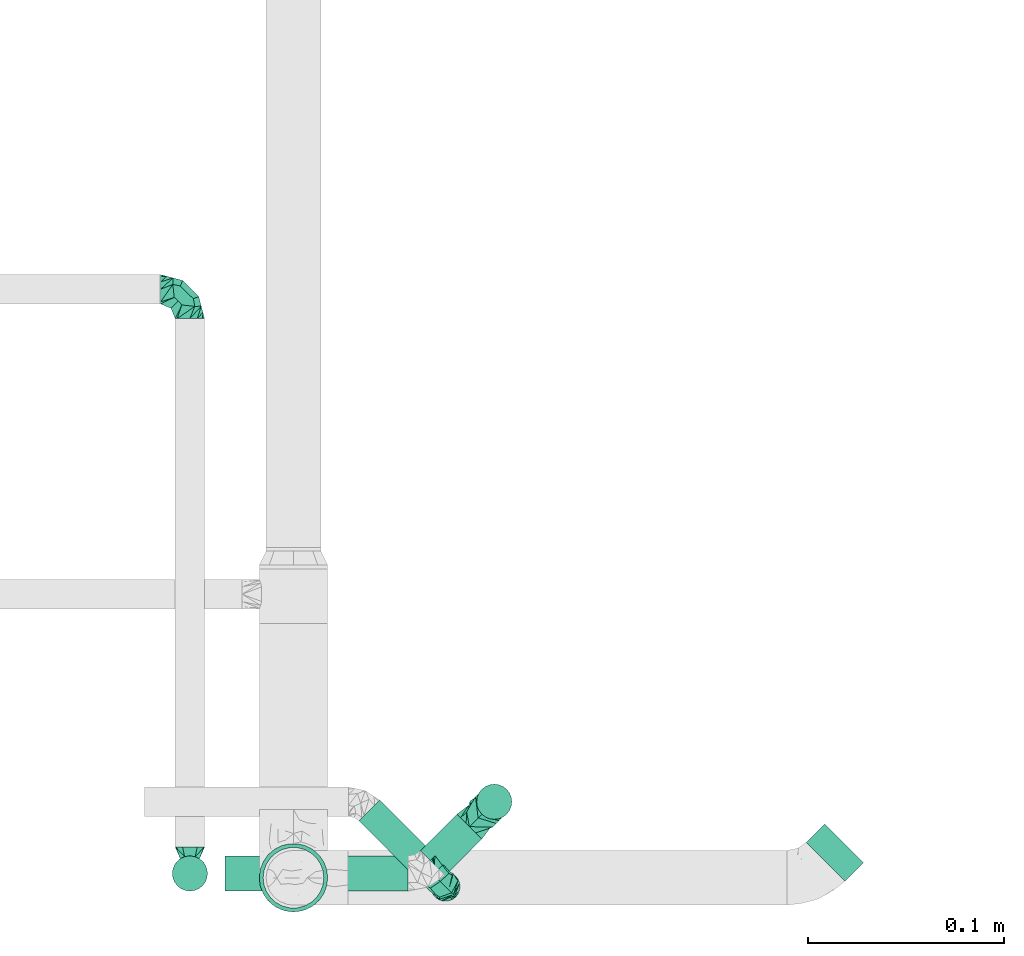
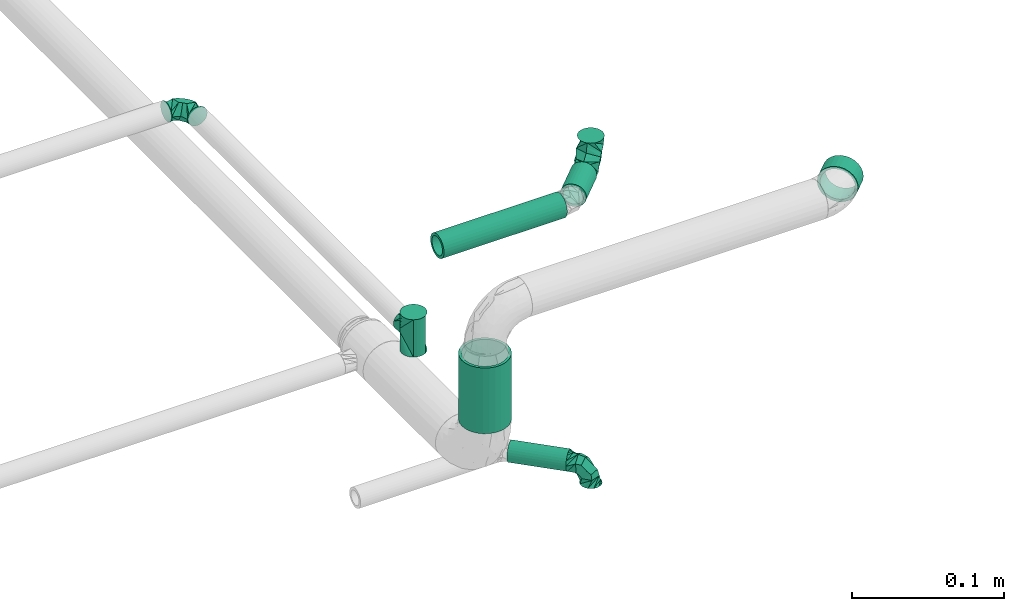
# One storey, part 15 of 35: 5 flow segments, 4 flow fittings.
"""IFC2X3 building model written with IfcOpenShell, lengths in millimetres."""

import ifcopenshell
import ifcopenshell.guid

model = None  # the IFC model being written
_history = None  # IfcOwnerHistory: only IFC2X3 demands one
_inside = {}  # id of a spatial element -> (the spatial element, [elements in it])
_under = {}  # id of a project, library or spatial element -> (it, [spatial elements below it])
_declared = {}  # id of a project -> (the project, [libraries it declares])
_typed = {}  # id of a type object -> (the type object, [elements of that type])
_made_of = {}  # id of a material, layer set ... -> (it, [elements and type objects made of it])


def new_model(schema):
    """Start an empty IFC model of exactly this schema.

    Asked for "IFC4X3", IfcOpenShell would pick the latest addendum, in which some entities
    have other attributes; the version numbers below select the first issue.
    IFC2X3 requires an IfcOwnerHistory on every rooted entity: one is made here for all.
    """
    global model, _history
    if schema == "IFC4X3":
        model = ifcopenshell.file(schema_version=(4, 3, 0, 0))
    else:
        model = ifcopenshell.file(schema=schema)
    _inside.clear()
    _under.clear()
    _declared.clear()
    _typed.clear()
    _made_of.clear()
    _history = None
    if model.schema == "IFC2X3":
        org = make("IfcOrganization", Name="unknown")
        user = make(
            "IfcPersonAndOrganization",
            ThePerson=make("IfcPerson", FamilyName="unknown"),
            TheOrganization=org,
        )
        app = make(
            "IfcApplication",
            ApplicationDeveloper=org,
            Version="unknown",
            ApplicationFullName="unknown",
            ApplicationIdentifier="unknown",
        )
        _history = make(
            "IfcOwnerHistory",
            OwningUser=user,
            OwningApplication=app,
            ChangeAction="ADDED",
            CreationDate=0,
        )
    return model


def make(cls, **values):
    """One entity of the class cls with the attributes given. An attribute that is None is left unset."""
    return model.create_entity(
        cls, **{name: value for name, value in values.items() if value is not None}
    )


def entity(cls, *values):
    """Any entity or typed value of the class cls, its attributes in the order of the schema. None: left unset."""
    e = model.create_entity(cls)
    for i, value in enumerate(values):
        if value is not None:
            e[i] = value
    return e


def rooted(cls, **values):
    """An entity with a GlobalId (a new one), such as an element, a storey or a relation."""
    return make(cls, GlobalId=ifcopenshell.guid.new(), OwnerHistory=_history, **values)


def si_unit(unit_type, name, prefix=None):
    """IfcSIUnit, for example si_unit("LENGTHUNIT", "METRE", prefix="MILLI")."""
    return make("IfcSIUnit", UnitType=unit_type, Prefix=prefix, Name=name)


def converted_unit(unit_type, name, factor, base, dimensions=None, offset=None):
    """IfcConversionBasedUnit, such as the inch: factor (a typed value) times the base unit."""
    return make(
        "IfcConversionBasedUnit"
        if offset is None
        else "IfcConversionBasedUnitWithOffset",
        ConversionOffset=offset,
        Dimensions=None
        if dimensions is None
        else entity("IfcDimensionalExponents", *dimensions),
        UnitType=unit_type,
        Name=name,
        ConversionFactor=make(
            "IfcMeasureWithUnit", ValueComponent=factor, UnitComponent=base
        ),
    )


def derived_unit(unit_type, elements):
    """IfcDerivedUnit: a product of units, each with its exponent."""
    return make(
        "IfcDerivedUnit",
        Elements=[
            make("IfcDerivedUnitElement", Unit=unit, Exponent=power)
            for unit, power in elements
        ],
        UnitType=unit_type,
    )


def assignment(units):
    """IfcUnitAssignment: the units of a project."""
    return None if units is None else make("IfcUnitAssignment", Units=units)


def point(xyz):
    """IfcCartesianPoint."""
    return None if xyz is None else make("IfcCartesianPoint", Coordinates=xyz)


def direction(xyz):
    """IfcDirection."""
    return None if xyz is None else make("IfcDirection", DirectionRatios=xyz)


def frame(location, z_axis=None, x_axis=None):
    """IfcAxis2Placement3D, a coordinate frame: its origin and axes. An axis left out is left unset."""
    return make(
        "IfcAxis2Placement3D",
        Location=point(location),
        Axis=direction(z_axis),
        RefDirection=direction(x_axis),
    )


def frame_2d(location, x_axis=None):
    """IfcAxis2Placement2D, a coordinate frame in the plane: its origin and x axis."""
    return make(
        "IfcAxis2Placement2D", Location=point(location), RefDirection=direction(x_axis)
    )


def origin_with_axes():
    """The frame at (0, 0, 0) with the z axis (0, 0, 1) and the x axis (1, 0, 0) written out."""
    return frame((0.0, 0.0, 0.0), z_axis=(0.0, 0.0, 1.0), x_axis=(1.0, 0.0, 0.0))


def origin_2d_with_axis():
    """The frame at (0, 0) in the plane with the x axis (1, 0) written out."""
    return frame_2d((0.0, 0.0), x_axis=(1.0, 0.0))


def place(relative_to, where):
    """IfcLocalPlacement: puts the frame where relative to a parent placement (None: the world)."""
    return make(
        "IfcLocalPlacement", PlacementRelTo=relative_to, RelativePlacement=where
    )


def context(
    kind, dimensions, precision=None, world=None, true_north=None, identifier=None
):
    """IfcGeometricRepresentationContext, for example the 3D "Model" context."""
    return make(
        "IfcGeometricRepresentationContext",
        ContextIdentifier=identifier,
        ContextType=kind,
        CoordinateSpaceDimension=dimensions,
        Precision=precision,
        WorldCoordinateSystem=world,
        TrueNorth=true_north,
    )


def subcontext(parent, identifier, kind, view, scale=None):
    """IfcGeometricRepresentationSubContext, for example "Body" below "Model"."""
    return make(
        "IfcGeometricRepresentationSubContext",
        ContextIdentifier=identifier,
        ContextType=kind,
        ParentContext=parent,
        TargetScale=scale,
        TargetView=view,
    )


def project(units=None, contexts=None):
    """IfcProject with its units and contexts."""
    return rooted(
        "IfcProject",
        Name="project",
        RepresentationContexts=contexts,
        UnitsInContext=assignment(units),
    )


def spatial(cls, under=None, at=None, **own):
    """A site, building, storey or space (cls), placed at a placement, below another one or the project."""
    s = rooted(cls, ObjectPlacement=at, **own)
    if under is not None:
        _under.setdefault(under.id(), (under, []))[1].append(s)
    return s


def profile(cls, at=None, kind="AREA", **sizes):
    """A parametric profile (cls). Its sizes go by their IFC names, for example OverallWidth=200.0."""
    return make(cls, ProfileType=kind, Position=at, **sizes)


def hollow_circle(**sizes):
    """IfcCircleHollowProfileDef."""
    return profile("IfcCircleHollowProfileDef", **sizes)


def extrude(swept, where, along, depth):
    """IfcExtrudedAreaSolid: the profile swept, set in the frame where, extruded along a direction by depth."""
    return make(
        "IfcExtrudedAreaSolid",
        SweptArea=swept,
        Position=where,
        ExtrudedDirection=direction(along),
        Depth=depth,
    )


def faces_of(points, faces, orient=None, outer=None):
    """IfcFace entities. A face is a list of loops; a loop is a list of indices into points, from 0.

    orient and outer hold one flag for each loop. By default every Orientation is true, the
    first loop of a face is its IfcFaceOuterBound and the others are IfcFaceBound.
    """
    made = []
    for i, loops in enumerate(faces):
        bounds = []
        for j, loop in enumerate(loops):
            is_outer = j == 0 if outer is None else outer[i][j]
            bounds.append(
                make(
                    "IfcFaceOuterBound" if is_outer else "IfcFaceBound",
                    Bound=make("IfcPolyLoop", Polygon=[points[k] for k in loop]),
                    Orientation=True if orient is None else orient[i][j],
                )
            )
        made.append(make("IfcFace", Bounds=bounds))
    return made


def open_shell(faces, orient=None, outer=None):
    """The faces of one IfcOpenShell. surface_model builds it on its shared points."""
    return ("IfcOpenShell", faces, orient, outer)


def surface_model(cls, points, shells):
    """IfcFaceBasedSurfaceModel or IfcShellBasedSurfaceModel (cls): surfaces that need not close."""
    shared = [point(p) for p in points]
    made = [make(c, CfsFaces=faces_of(shared, fs, o, b)) for c, fs, o, b in shells]
    if cls == "IfcFaceBasedSurfaceModel":
        return make(cls, FbsmFaces=made)
    return make(cls, SbsmBoundary=made)


def shape(context_of_items, identifier, shape_type, items):
    """IfcShapeRepresentation: the items that make up one representation, for example the "Body"."""
    return make(
        "IfcShapeRepresentation",
        ContextOfItems=context_of_items,
        RepresentationIdentifier=identifier,
        RepresentationType=shape_type,
        Items=items,
    )


def source(mapping_origin, context_of_items, identifier, shape_type, items):
    """IfcRepresentationMap: a shape defined once, which mapped items show again and again."""
    return make(
        "IfcRepresentationMap",
        MappingOrigin=mapping_origin,
        MappedRepresentation=shape(context_of_items, identifier, shape_type, items),
    )


def transform(
    local_origin,
    x_axis=None,
    y_axis=None,
    z_axis=None,
    scale=None,
    scale2=None,
    scale3=None,
    uniform=True,
):
    """IfcCartesianTransformationOperator3D, or its non-uniform kind. x_axis, y_axis, z_axis: its Axis1, 2, 3."""
    if uniform:
        return make(
            "IfcCartesianTransformationOperator3D",
            Axis1=direction(x_axis),
            Axis2=direction(y_axis),
            LocalOrigin=point(local_origin),
            Scale=scale,
            Axis3=direction(z_axis),
        )
    return make(
        "IfcCartesianTransformationOperator3DnonUniform",
        Axis1=direction(x_axis),
        Axis2=direction(y_axis),
        LocalOrigin=point(local_origin),
        Scale=scale,
        Axis3=direction(z_axis),
        Scale2=scale2,
        Scale3=scale3,
    )


def mapped(mapping_source, mapping_target):
    """IfcMappedItem: shows the shape of a source again, moved by a transform."""
    return make(
        "IfcMappedItem", MappingSource=mapping_source, MappingTarget=mapping_target
    )


def made_of(thing, what):
    """Note that an element or type object is made of a material, layer set ...; save() writes the relation."""
    if what is not None:
        _made_of.setdefault(what.id(), (what, []))[1].append(thing)
    return thing


def type_object(cls, material=None, **own):
    """A type object (cls), such as IfcWallType, which elements share."""
    return made_of(rooted(cls, **own), material)


def element(
    cls,
    number,
    at=None,
    inside=None,
    cuts=None,
    type_object=None,
    material=None,
    context=None,
    identifier="Body",
    shape_type=None,
    held_by="IfcProductDefinitionShape",
    body=None,
    shapes=None,
    **own,
):
    """One element of the class cls, such as IfcWall. Its Tag is "e" and its number.

    at: its placement. inside: the storey or other place that contains it. cuts: it is an
    opening in that element (IfcRelVoidsElement). A single representation is given by context,
    identifier, shape_type and body (its items); several are given by shapes. held_by: the class
    of the entity that holds the representations. save() writes the other relations.
    """
    e = rooted(cls, Tag="e%d" % number, ObjectPlacement=at, **own)
    if body is not None:
        shapes = [shape(context, identifier, shape_type, body)]
    if shapes is not None:
        e.Representation = make(held_by, Representations=shapes)
    if inside is not None:
        _inside.setdefault(inside.id(), (inside, []))[1].append(e)
    if cuts is not None:
        rooted(
            "IfcRelVoidsElement", RelatingBuildingElement=cuts, RelatedOpeningElement=e
        )
    if type_object is not None:
        _typed.setdefault(type_object.id(), (type_object, []))[1].append(e)
    return made_of(e, material)


def aggregate(whole, parts):
    """IfcRelAggregates: a whole, such as a stair, and the parts it consists of."""
    return rooted("IfcRelAggregates", RelatingObject=whole, RelatedObjects=parts)


def save(model, path):
    """Write the relations noted so far, then the file.

    IfcRelAggregates (storeys below a building ...), IfcRelContainedInSpatialStructure (elements
    in a storey), IfcRelDefinesByType, IfcRelAssociatesMaterial and IfcRelDeclares: one each for
    every whole, place, type object, material and project.
    """
    for whole, parts in _under.values():
        aggregate(whole, parts)
    for where, things in _inside.values():
        rooted(
            "IfcRelContainedInSpatialStructure",
            RelatedElements=things,
            RelatingStructure=where,
        )
    for kind, things in _typed.values():
        rooted("IfcRelDefinesByType", RelatedObjects=things, RelatingType=kind)
    for what, things in _made_of.values():
        rooted("IfcRelAssociatesMaterial", RelatedObjects=things, RelatingMaterial=what)
    for by, libraries in _declared.values():
        rooted("IfcRelDeclares", RelatingContext=by, RelatedDefinitions=libraries)
    model.write(path)


model = new_model("IFC2X3")

# Units and contexts
model_context = context("Model", 3, precision=0.01, world=frame((0.0, 4.29681676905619e-09, 0.0)), true_north=direction((4.01073788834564e-13, 1.0)))
plan_context = context("Plan", 3, precision=0.01, world=frame((0.0, 4.29681676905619e-09, 0.0)), true_north=direction((4.01073788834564e-13, 1.0)))
body_context = subcontext(model_context, "Body", "Model", "MODEL_VIEW")
ifc_project = project(units=[converted_unit("PLANEANGLEUNIT", "DEGREE", entity("IfcPositiveLengthMeasure", 0.0174532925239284), si_unit("PLANEANGLEUNIT", "RADIAN"), dimensions=[0, 0, 0, 0, 0, 0, 0]), si_unit("AREAUNIT", "SQUARE_METRE"), si_unit("LENGTHUNIT", "METRE", prefix="MILLI"), si_unit("MASSUNIT", "GRAM", prefix="KILO"), si_unit("POWERUNIT", "WATT"), si_unit("PRESSUREUNIT", "PASCAL"), si_unit("FORCEUNIT", "NEWTON", prefix="KILO"), si_unit("ELECTRICVOLTAGEUNIT", "VOLT"), si_unit("ELECTRICCURRENTUNIT", "AMPERE"), si_unit("THERMODYNAMICTEMPERATUREUNIT", "DEGREE_CELSIUS"), si_unit("TIMEUNIT", "SECOND"), si_unit("VOLUMEUNIT", "CUBIC_METRE"), derived_unit("LINEARVELOCITYUNIT", [(si_unit("LENGTHUNIT", "METRE"), 1), (si_unit("TIMEUNIT", "SECOND"), -1)]), derived_unit("VOLUMETRICFLOWRATEUNIT", [(si_unit("VOLUMEUNIT", "CUBIC_METRE"), 1), (si_unit("TIMEUNIT", "SECOND"), -1)]), derived_unit("THERMALTRANSMITTANCEUNIT", [(si_unit("POWERUNIT", "WATT"), 1), (si_unit("THERMODYNAMICTEMPERATUREUNIT", "KELVIN"), -1), (si_unit("AREAUNIT", "SQUARE_METRE"), -1)]), derived_unit("SOUNDPRESSUREUNIT", [(si_unit("PRESSUREUNIT", "PASCAL"), 1)])], contexts=[model_context, plan_context])

# Site, building, storey
site_placement = place(None, frame((0.0, -4.29681676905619e-09, 0.0), z_axis=(0.0, 0.0, 1.0), x_axis=(1.0, 0.0, 0.0)))
site = spatial("IfcSite", under=ifc_project, at=site_placement, Name="ENGM", CompositionType="ELEMENT")
building_placement = place(site_placement, frame((0.0, 4.29681676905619e-09, 0.0), z_axis=(0.0, 0.0, 1.0), x_axis=(1.0, 0.0, 0.0)))
building = spatial("IfcBuilding", under=site, at=building_placement, Name="TH", CompositionType="ELEMENT")
storey_placement = place(building_placement, frame((0.0, 0.0, 210200.0), z_axis=(0.0, 0.0, 1.0), x_axis=(1.0, 0.0, 0.0)))
storey = spatial("IfcBuildingStorey", under=building, at=storey_placement, Name="Nivå F - 0,7 m", CompositionType="ELEMENT", Elevation=210200.0)

# Flow fittings
pipe_fitting_type_1 = type_object("IfcPipeFittingType", Name="magi_pipe_cu_elbow_short_001", PredefinedType="BEND")
shared_shape_1 = source(origin_with_axes(), body_context, "Body", "SurfaceModel", [
    surface_model("IfcShellBasedSurfaceModel", [(-18.0, 4.5, -7.79423), (-18.0, 2.32937, -8.69333), (-18.0, 0.0, -9.0), (-18.0, -6.36396, -6.36396), (-18.0, 8.69333, -2.32937), (-18.0, 7.79423, -4.5), (-18.0, 6.36396, -6.36396), (-18.0, -4.5, -7.79423), (-18.0, -2.32937, -8.69333), (-18.0, -7.79423, -4.5), (-18.0, -8.69333, -2.32937), (-18.0, -9.0, 0.0), (-18.0, 8.69333, 2.32937), (-18.0, -8.69333, 2.32937), (-18.0, 7.79423, 4.5), (-18.0, 6.36396, 6.36396), (-18.0, 2.32937, 8.69333), (-18.0, 4.5, 7.79423), (-18.0, -7.79423, 4.5), (-18.0, -6.36396, 6.36396), (-18.0, -4.5, 7.79423), (-18.0, -2.32937, 8.69333), (-18.0, 0.0, 9.0), (-18.0, 9.0, 0.0), (0.0, 18.0, -9.0), (-2.32937, 18.0, -8.69333), (-4.5, 18.0, -7.79423), (6.36396, 18.0, -6.36396), (-6.36396, 18.0, -6.36396), (-7.79423, 18.0, -4.5), (-8.69333, 18.0, -2.32937), (-8.69333, 18.0, 2.32937), (2.32937, 18.0, -8.69333), (4.5, 18.0, -7.79423), (8.69333, 18.0, -2.32937), (7.79423, 18.0, -4.5), (9.0, 18.0, 0.0), (7.79423, 18.0, 4.5), (-9.0, 18.0, 0.0), (-6.36396, 18.0, 6.36396), (-7.79423, 18.0, 4.5), (-4.5, 18.0, 7.79423), (-2.32937, 18.0, 8.69333), (6.36396, 18.0, 6.36396), (8.69333, 18.0, 2.32937), (2.32937, 18.0, 8.69333), (4.5, 18.0, 7.79423), (0.0, 18.0, 9.0), (-16.09014, -8.48825, 0.0), (-10.51068, -2.97249, 7.92278), (-10.36056, -6.95302, 0.0), (-4.5, -5.38269, 0.0), (0.44134, -0.44134, 0.0), (2.91201, 2.02933, 0.0), (-2.70211, 1.18586, 7.65564), (-2.02933, -2.91201, 0.0), (-14.18028, -7.97651, 0.0), (-7.11648, 7.11648, 8.61373), (-4.93977, 9.63211, 8.64898), (2.97249, 10.51068, 7.92278), (2.01286, 5.84889, 7.1903), (5.38269, 4.5, 0.0), (-5.73616, -2.07922, 7.10204), (8.48825, 16.09014, 0.0), (7.97651, 14.18028, 0.0), (-9.63211, 4.93977, 8.64898), (-10.31802, 14.81802, 0.0), (-14.81802, 10.31802, 0.0), (-11.63604, 11.63604, 0.0), (6.95302, 10.36056, 0.0), (-10.51068, -2.97249, -7.92278), (-4.93977, 9.63211, -8.64898), (0.8585, 4.1248, -7.1903), (-2.68792, 2.14037, -8.03971), (2.97249, 10.51068, -7.92278), (-13.67048, 7.29638, -6.27272), (-8.50355, 2.18787, -8.98901), (-9.83427, 8.11209, -7.36254)], [open_shell([[[0, 1, 2]], [[0, 2, 3]], [[0, 4, 5]], [[6, 0, 5]], [[4, 0, 3]], [[7, 3, 8]], [[3, 2, 8]], [[9, 10, 3]], [[11, 3, 10]], [[3, 11, 4]], [[11, 12, 4]], [[12, 11, 13]], [[14, 12, 15]], [[16, 17, 15]], [[13, 15, 12]], [[15, 18, 16]], [[18, 19, 16]], [[15, 13, 18]], [[20, 21, 19]], [[22, 19, 21]], [[16, 19, 22]], [[23, 4, 12]], [[24, 25, 26]], [[27, 24, 26]], [[28, 29, 30]], [[28, 30, 26]], [[26, 31, 27]], [[32, 27, 33]], [[32, 24, 27]], [[27, 34, 35]], [[34, 27, 36]], [[27, 37, 36]], [[26, 30, 38]], [[27, 31, 37]], [[39, 31, 40]], [[39, 41, 42]], [[39, 42, 31]], [[43, 31, 42]], [[31, 43, 37]], [[44, 36, 37]], [[43, 45, 46]], [[45, 43, 47]], [[47, 43, 42]], [[31, 26, 38]], [[13, 48, 18]], [[49, 50, 51]], [[52, 53, 54]], [[54, 55, 52]], [[20, 19, 56]], [[18, 56, 19]], [[57, 54, 58]], [[20, 50, 21]], [[22, 21, 50]], [[59, 60, 61]], [[59, 58, 60]], [[55, 54, 62]], [[22, 50, 49]], [[22, 49, 16]], [[62, 49, 51]], [[62, 51, 55]], [[37, 63, 44]], [[49, 17, 16]], [[64, 63, 37]], [[12, 65, 23]], [[14, 15, 49]], [[54, 65, 62]], [[17, 49, 15]], [[58, 38, 66]], [[67, 57, 68]], [[53, 60, 54]], [[45, 47, 69]], [[69, 46, 45]], [[39, 59, 41]], [[42, 59, 47]], [[43, 46, 64]], [[68, 57, 66]], [[64, 46, 69]], [[61, 60, 53]], [[44, 63, 36]], [[59, 61, 69]], [[38, 58, 31]], [[20, 56, 50]], [[54, 57, 65]], [[49, 65, 14]], [[66, 57, 58]], [[64, 37, 43]], [[40, 31, 58]], [[14, 65, 12]], [[39, 40, 59]], [[13, 11, 48]], [[40, 58, 59]], [[48, 56, 18]], [[41, 59, 42]], [[59, 69, 47]], [[49, 62, 65]], [[57, 67, 65]], [[54, 60, 58]], [[67, 23, 65]], [[70, 50, 2]], [[71, 72, 73]], [[74, 71, 29]], [[70, 1, 0]], [[70, 51, 50]], [[34, 36, 63]], [[75, 6, 5]], [[75, 4, 23]], [[5, 4, 75]], [[51, 76, 55]], [[75, 23, 67]], [[70, 6, 75]], [[48, 11, 10]], [[7, 56, 3]], [[2, 50, 8]], [[51, 70, 76]], [[56, 7, 50]], [[7, 8, 50]], [[70, 2, 1]], [[66, 38, 71]], [[52, 72, 53]], [[6, 70, 0]], [[70, 75, 76]], [[73, 52, 55]], [[71, 68, 66]], [[61, 53, 72]], [[33, 64, 69]], [[30, 71, 38]], [[28, 74, 29]], [[56, 9, 3]], [[26, 25, 74]], [[63, 64, 35]], [[56, 48, 9]], [[26, 74, 28]], [[9, 48, 10]], [[24, 74, 25]], [[32, 69, 24]], [[29, 71, 30]], [[27, 64, 33]], [[69, 32, 33]], [[68, 71, 77]], [[74, 24, 69]], [[35, 34, 63]], [[61, 72, 74]], [[61, 74, 69]], [[67, 77, 75]], [[74, 72, 71]], [[35, 64, 27]], [[76, 77, 73]], [[75, 77, 76]], [[77, 71, 73]], [[55, 76, 73]], [[72, 52, 73]], [[77, 67, 68]]])]),
])
flow_fitting_1_placement = place(storey_placement, frame((895676.1125, 478585.9125, 3240.0), z_axis=(0.707106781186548, -0.707106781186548, 0.0), x_axis=(0.707106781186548, 0.707106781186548, 0.0)))
element("IfcFlowFitting", 1, at=flow_fitting_1_placement, inside=storey, type_object=pipe_fitting_type_1, Name="magi_pipe_cu_elbow_short_001", context=body_context, shape_type="MappedRepresentation", body=[
    mapped(shared_shape_1, transform((0.0, 0.0, 0.0), scale=1.0)),
])
shared_shape_2 = source(origin_with_axes(), body_context, "Body", "SurfaceModel", [
    surface_model("IfcShellBasedSurfaceModel", [(-15.0, 0.0, -7.5), (-15.0, -6.49519, -3.75), (-15.0, 1.94114, -7.24444), (-15.0, 3.75, -6.49519), (-15.0, 5.3033, -5.3033), (-15.0, 7.24444, -1.94114), (-15.0, 6.49519, -3.75), (-15.0, -5.3033, -5.3033), (-15.0, -3.75, -6.49519), (-15.0, -1.94114, -7.24444), (-15.0, -7.24444, -1.94114), (-15.0, -7.5, 0.0), (-15.0, -6.49519, 3.75), (-15.0, 7.24444, 1.94114), (-15.0, 6.49519, 3.75), (-15.0, 3.75, 6.49519), (-15.0, 1.94114, 7.24444), (-15.0, 5.3033, 5.3033), (-15.0, -5.3033, 5.3033), (-15.0, -7.24444, 1.94114), (-15.0, -1.94114, 7.24444), (-15.0, 0.0, 7.5), (-15.0, -3.75, 6.49519), (-15.0, 7.5, 0.0), (-1.94114, 15.0, -7.24444), (6.49519, 15.0, -3.75), (0.0, 15.0, -7.5), (-5.3033, 15.0, -5.3033), (-3.75, 15.0, -6.49519), (-6.49519, 15.0, -3.75), (-7.24444, 15.0, -1.94114), (3.75, 15.0, -6.49519), (5.3033, 15.0, -5.3033), (1.94114, 15.0, -7.24444), (7.5, 15.0, 0.0), (7.24444, 15.0, -1.94114), (-7.5, 15.0, 0.0), (-7.24444, 15.0, 1.94114), (-6.49519, 15.0, 3.75), (-3.75, 15.0, 6.49519), (-1.94114, 15.0, 7.24444), (-5.3033, 15.0, 5.3033), (5.3033, 15.0, 5.3033), (6.49519, 15.0, 3.75), (7.24444, 15.0, 1.94114), (3.75, 15.0, 6.49519), (0.0, 15.0, 7.5), (1.94114, 15.0, 7.24444), (-13.40845, -7.07355, 0.0), (-8.7589, -2.47707, 6.60232), (-8.6338, -5.79418, 0.0), (-3.75, -4.48557, 0.0), (0.36779, -0.36779, 0.0), (2.42668, 1.69111, 0.0), (-2.25176, 0.98822, 6.3797), (-1.69111, -2.42668, 0.0), (-11.8169, -6.64709, 0.0), (-5.9304, 5.9304, 7.17811), (-4.11647, 8.02676, 7.20749), (2.47708, 8.7589, 6.60232), (1.67739, 4.87408, 5.99192), (4.48557, 3.75, 0.0), (-4.78013, -1.73268, 5.91836), (7.07355, 13.40845, 0.0), (6.64709, 11.8169, 0.0), (-8.02675, 4.11647, 7.20749), (-8.59835, 12.34835, 0.0), (-12.34835, 8.59835, 0.0), (-9.6967, 9.6967, 0.0), (5.79418, 8.6338, 0.0), (-8.7589, -2.47707, -6.60232), (-4.11647, 8.02676, -7.20749), (0.71542, 3.43733, -5.99192), (-2.23993, 1.78364, -6.69976), (2.47708, 8.7589, -6.60232), (-11.39207, 6.08032, -5.22727), (-7.08629, 1.82323, -7.49084), (-8.19523, 6.76007, -6.13545)], [open_shell([[[0, 1, 2]], [[3, 2, 4]], [[5, 6, 4]], [[4, 2, 1]], [[5, 4, 1]], [[7, 1, 8]], [[9, 8, 1]], [[10, 11, 1]], [[0, 9, 1]], [[11, 12, 1]], [[12, 5, 1]], [[13, 5, 12]], [[14, 13, 15]], [[13, 16, 15]], [[17, 14, 15]], [[16, 13, 12]], [[12, 18, 16]], [[12, 11, 19]], [[20, 21, 22]], [[18, 22, 21]], [[16, 18, 21]], [[13, 23, 5]], [[24, 25, 26]], [[27, 24, 28]], [[27, 29, 30]], [[25, 24, 27]], [[25, 27, 30]], [[31, 25, 32]], [[25, 31, 33]], [[25, 34, 35]], [[25, 33, 26]], [[30, 34, 25]], [[30, 36, 34]], [[36, 37, 38]], [[36, 38, 39]], [[40, 34, 39]], [[39, 38, 41]], [[40, 42, 34]], [[42, 43, 34]], [[44, 34, 43]], [[45, 46, 47]], [[45, 42, 40]], [[45, 40, 46]], [[39, 34, 36]], [[19, 48, 12]], [[49, 50, 51]], [[52, 53, 54]], [[54, 55, 52]], [[22, 18, 56]], [[12, 56, 18]], [[57, 54, 58]], [[22, 50, 20]], [[21, 20, 50]], [[59, 60, 61]], [[59, 58, 60]], [[55, 54, 62]], [[21, 50, 49]], [[21, 49, 16]], [[62, 49, 51]], [[62, 51, 55]], [[43, 63, 44]], [[49, 15, 16]], [[64, 63, 43]], [[13, 65, 23]], [[14, 17, 49]], [[54, 65, 62]], [[15, 49, 17]], [[57, 58, 66]], [[67, 57, 68]], [[53, 60, 54]], [[47, 46, 69]], [[69, 45, 47]], [[41, 59, 39]], [[40, 59, 46]], [[42, 45, 64]], [[54, 60, 58]], [[64, 45, 69]], [[61, 60, 53]], [[44, 63, 34]], [[59, 61, 69]], [[58, 36, 66]], [[22, 56, 50]], [[54, 57, 65]], [[49, 65, 14]], [[37, 36, 58]], [[64, 43, 42]], [[38, 37, 58]], [[14, 65, 13]], [[41, 38, 59]], [[19, 11, 48]], [[38, 58, 59]], [[48, 56, 12]], [[39, 59, 40]], [[59, 69, 46]], [[49, 62, 65]], [[57, 67, 65]], [[66, 68, 57]], [[67, 23, 65]], [[70, 50, 0]], [[71, 72, 73]], [[74, 71, 29]], [[70, 2, 3]], [[70, 51, 50]], [[35, 34, 63]], [[75, 4, 6]], [[75, 5, 23]], [[6, 5, 75]], [[51, 76, 55]], [[75, 23, 67]], [[70, 4, 75]], [[48, 11, 10]], [[8, 56, 7]], [[0, 50, 9]], [[51, 70, 76]], [[56, 8, 50]], [[8, 9, 50]], [[70, 0, 2]], [[66, 36, 71]], [[52, 72, 53]], [[4, 70, 3]], [[70, 75, 76]], [[73, 52, 55]], [[71, 68, 66]], [[61, 53, 72]], [[31, 64, 69]], [[30, 71, 36]], [[27, 74, 29]], [[56, 1, 7]], [[28, 24, 74]], [[63, 64, 25]], [[56, 48, 1]], [[28, 74, 27]], [[1, 48, 10]], [[26, 74, 24]], [[33, 69, 26]], [[29, 71, 30]], [[32, 64, 31]], [[69, 33, 31]], [[68, 71, 77]], [[74, 26, 69]], [[25, 35, 63]], [[61, 72, 74]], [[61, 74, 69]], [[67, 77, 75]], [[74, 72, 71]], [[25, 64, 32]], [[76, 77, 73]], [[75, 77, 76]], [[77, 71, 73]], [[55, 76, 73]], [[72, 52, 73]], [[77, 67, 68]]])]),
])
for number, where, z_axis, x_axis, name in (
    (2, (895520.48466, 478848.0, 3178.15807999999), (0.0, 0.0, 1.0), (0.0, 1.0, 0.0), "magi_pipe_cu_elbow_short_001"),
    (3, (895651.15, 478542.5375, 3030.0), (-0.707106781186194, -0.707106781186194, 9.99999690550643e-07), (7.07106562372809e-07, 7.07106562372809e-07, 0.9999999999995), "magi_pipe_cu_elbow_short_001"),
):
    element("IfcFlowFitting", number, at=place(storey_placement, frame(where, z_axis=z_axis, x_axis=x_axis)), inside=storey, type_object=pipe_fitting_type_1, Name=name, context=body_context, shape_type="MappedRepresentation", body=[
        mapped(shared_shape_2, transform((0.0, 0.0, 0.0), scale=1.0)),
    ])
pipe_fitting_type_2 = type_object("IfcPipeFittingType", Name="magi_pipe_cu_tee_centric_90_001", PredefinedType="JUNCTION")
shared_shape_3 = source(origin_with_axes(), body_context, "Body", "SurfaceModel", [
    surface_model("IfcShellBasedSurfaceModel", [(-15.0, 4.5, -7.79423), (-15.0, 2.32937, -8.69333), (-15.0, 0.0, -9.0), (-15.0, -2.32937, -8.69333), (-15.0, 7.79423, -4.5), (-15.0, 6.36396, -6.36396), (-15.0, 8.69333, -2.32937), (-15.0, -4.5, -7.79423), (-15.0, -6.36396, -6.36396), (-15.0, -7.79423, -4.5), (-15.0, -8.69333, -2.32937), (-15.0, -9.0, 0.0), (-15.0, -4.5, 7.79423), (-15.0, 8.69333, 2.32937), (-15.0, 9.0, 0.0), (-15.0, 2.32937, 8.69333), (-15.0, 7.79423, 4.5), (-15.0, 4.5, 7.79423), (-15.0, 6.36396, 6.36396), (-15.0, 0.0, 9.0), (-15.0, -6.36396, 6.36396), (-15.0, -7.79423, 4.5), (-15.0, -8.69333, 2.32937), (-15.0, -2.32937, 8.69333), (15.0, 0.0, -9.0), (15.0, 2.32937, -8.69333), (15.0, 4.5, -7.79423), (15.0, -9.0, 0.0), (15.0, -4.5, 7.79423), (15.0, 7.79423, -4.5), (15.0, 6.36396, -6.36396), (15.0, 8.69333, 2.32937), (15.0, -4.5, -7.79423), (15.0, -2.32937, -8.69333), (15.0, -6.36396, -6.36396), (15.0, -8.69333, -2.32937), (15.0, -7.79423, -4.5), (15.0, 8.69333, -2.32937), (15.0, 9.0, 0.0), (15.0, 2.32937, 8.69333), (15.0, 7.79423, 4.5), (15.0, 4.5, 7.79423), (15.0, 6.36396, 6.36396), (15.0, -7.79423, 4.5), (15.0, -6.36396, 6.36396), (15.0, -8.69333, 2.32937), (15.0, 0.0, 9.0), (15.0, -2.32937, 8.69333), (7.5, -9.0, 0.0), (6.9985, -8.58656, 2.69649), (5.67205, -7.54468, 4.90692), (3.77808, -6.24691, 6.4789), (1.37541, -5.16157, 7.3728), (-7.5, -9.0, 0.0), (-6.99877, -8.58678, 2.69578), (-5.673, -7.54539, 4.90582), (-3.77855, -6.24719, 6.47862), (-1.37789, -5.16223, 7.37234), (1.37541, -5.16157, -7.3728), (3.77808, -6.24691, -6.4789), (-1.37789, -5.16223, -7.37234), (-3.77855, -6.24719, -6.47862), (5.67205, -7.54468, -4.90692), (6.9985, -8.58656, -2.69649), (-5.673, -7.54539, -4.90582), (-6.99877, -8.58678, -2.69578), (5.3033, -13.5, -5.3033), (0.0, -13.5, -7.5), (1.94114, -13.5, -7.24444), (3.75, -13.5, -6.49519), (6.49519, -13.5, -3.75), (7.24444, -13.5, -1.94114), (-5.3033, -13.5, -5.3033), (-7.5, -13.5, 0.0), (-1.94114, -13.5, -7.24444), (-3.75, -13.5, -6.49519), (-6.49519, -13.5, -3.75), (-7.24444, -13.5, -1.94114), (3.75, -13.5, 6.49519), (7.5, -13.5, 0.0), (7.24444, -13.5, 1.94114), (6.49519, -13.5, 3.75), (0.0, -13.5, 7.5), (5.3033, -13.5, 5.3033), (1.94114, -13.5, 7.24444), (-7.24444, -13.5, 1.94114), (-5.3033, -13.5, 5.3033), (-6.49519, -13.5, 3.75), (-3.75, -13.5, 6.49519), (-1.94114, -13.5, 7.24444)], [open_shell([[[0, 1, 2]], [[0, 2, 3]], [[3, 4, 0]], [[5, 0, 4]], [[4, 3, 6]], [[7, 8, 3]], [[8, 6, 3]], [[9, 10, 8]], [[11, 8, 10]], [[8, 11, 6]], [[11, 12, 6]], [[13, 14, 15]], [[16, 13, 15]], [[16, 15, 17]], [[18, 16, 17]], [[19, 15, 14]], [[20, 12, 21]], [[11, 22, 21]], [[23, 19, 12]], [[21, 12, 11]], [[12, 19, 14]], [[14, 6, 12]], [[24, 25, 26]], [[27, 24, 26]], [[27, 26, 28]], [[29, 26, 30]], [[26, 29, 31]], [[24, 32, 33]], [[24, 34, 32]], [[34, 35, 36]], [[35, 34, 27]], [[24, 27, 34]], [[29, 37, 38]], [[28, 26, 31]], [[39, 31, 40]], [[41, 39, 40]], [[41, 40, 42]], [[28, 31, 39]], [[43, 28, 44]], [[43, 45, 27]], [[28, 46, 47]], [[27, 28, 43]], [[39, 46, 28]], [[29, 38, 31]], [[27, 45, 48]], [[49, 48, 45]], [[45, 43, 49]], [[44, 50, 49]], [[28, 51, 50]], [[46, 52, 51]], [[28, 50, 44]], [[44, 49, 43]], [[53, 54, 22]], [[22, 11, 53]], [[54, 21, 22]], [[12, 55, 56]], [[54, 20, 21]], [[20, 54, 55]], [[12, 20, 55]], [[56, 57, 19]], [[52, 16, 57]], [[47, 46, 51]], [[39, 52, 46]], [[52, 39, 41]], [[40, 52, 42]], [[16, 40, 31]], [[16, 52, 40]], [[52, 41, 42]], [[13, 31, 38]], [[19, 57, 15]], [[23, 56, 19]], [[12, 56, 23]], [[13, 16, 31]], [[17, 57, 18]], [[16, 18, 57]], [[15, 57, 17]], [[38, 14, 13]], [[47, 51, 28]], [[37, 14, 38]], [[6, 37, 29]], [[4, 29, 58]], [[30, 26, 58]], [[25, 24, 58]], [[25, 58, 26]], [[30, 58, 29]], [[24, 33, 59]], [[60, 5, 4]], [[4, 6, 29]], [[6, 14, 37]], [[61, 3, 2]], [[60, 1, 0]], [[1, 60, 2]], [[60, 0, 5]], [[3, 61, 7]], [[59, 33, 32]], [[62, 59, 32]], [[62, 34, 63]], [[58, 24, 59]], [[32, 34, 62]], [[36, 35, 63]], [[35, 48, 63]], [[48, 35, 27]], [[36, 63, 34]], [[64, 7, 61]], [[8, 64, 65]], [[8, 7, 64]], [[61, 2, 60]], [[65, 53, 10]], [[65, 10, 9]], [[10, 53, 11]], [[65, 9, 8]], [[58, 60, 4]], [[66, 67, 68]], [[66, 68, 69]], [[66, 70, 71]], [[67, 66, 72]], [[73, 66, 71]], [[74, 72, 75]], [[74, 67, 72]], [[76, 73, 77]], [[73, 76, 72]], [[66, 73, 72]], [[71, 78, 73]], [[79, 80, 81]], [[81, 78, 71]], [[78, 82, 73]], [[78, 81, 83]], [[82, 78, 84]], [[85, 86, 87]], [[86, 85, 82]], [[88, 82, 89]], [[82, 88, 86]], [[73, 82, 85]], [[81, 71, 79]], [[53, 73, 85]], [[54, 87, 86]], [[85, 87, 53]], [[86, 88, 54]], [[53, 87, 54]], [[55, 54, 89]], [[57, 56, 51]], [[55, 50, 56]], [[89, 82, 55]], [[88, 89, 54]], [[84, 50, 82]], [[78, 49, 84]], [[49, 83, 81]], [[78, 83, 49]], [[48, 81, 80]], [[50, 51, 56]], [[52, 57, 51]], [[81, 48, 49]], [[49, 50, 84]], [[80, 79, 48]], [[55, 82, 50]], [[48, 79, 71]], [[63, 70, 66]], [[71, 70, 48]], [[66, 69, 63]], [[48, 70, 63]], [[62, 63, 68]], [[58, 59, 60]], [[62, 61, 59]], [[68, 67, 62]], [[69, 68, 63]], [[74, 64, 67]], [[75, 65, 74]], [[65, 72, 76]], [[75, 72, 65]], [[53, 76, 77]], [[64, 61, 62]], [[60, 59, 61]], [[76, 53, 65]], [[65, 64, 74]], [[77, 73, 53]], [[62, 67, 64]]])]),
])
flow_fitting_2_placement = place(storey_placement, frame((895520.48466, 478549.2375, 3178.15807999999), z_axis=(1.0, 0.0, 0.0), x_axis=(0.0, 0.0, 1.0)))
element("IfcFlowFitting", 4, at=flow_fitting_2_placement, inside=storey, type_object=pipe_fitting_type_2, Name="magi_pipe_cu_tee_centric_90_001", context=body_context, shape_type="MappedRepresentation", body=[
    mapped(shared_shape_3, transform((0.0, 0.0, 0.0), scale=1.0)),
])

# Flow segments
pipe_segment_type = type_object("IfcPipeSegmentType", Name="Kobberrør", PredefinedType="RIGIDSEGMENT")
shared_shape_4 = source(origin_with_axes(), body_context, "Body", "SweptSolid", [
    extrude(hollow_circle(Radius=17.5, WallThickness=2.0, at=origin_2d_with_axis()), frame((0.0, 0.0, 0.0), z_axis=(1.0, 0.0, 0.0), x_axis=(0.0, 1.0, 0.0)), (0.0, 0.0, 1.0), 52.7),
])
flow_segment_1_placement = place(storey_placement, frame((895573.45, 478547.05558, 3090.47382000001), z_axis=(0.0, -1.0, 0.0), x_axis=(0.0, 0.0, 1.0)))
element("IfcFlowSegment", 5, at=flow_segment_1_placement, inside=storey, type_object=pipe_segment_type, Name="Kobberrør", context=body_context, shape_type="MappedRepresentation", body=[
    mapped(shared_shape_4, transform((0.0, 0.0, 0.0), scale=1.0)),
])
shared_shape_5 = source(origin_with_axes(), body_context, "Body", "SweptSolid", [
    extrude(hollow_circle(Radius=14.0, WallThickness=2.0, at=origin_2d_with_axis()), frame((0.0, 0.0, 0.0), z_axis=(1.0, 0.0, 0.0), x_axis=(0.0, 1.0, 0.0)), (0.0, 0.0, 1.0), 13.3),
])
flow_segment_2_placement = place(storey_placement, frame((895845.61097, 478555.25659, 3178.15708), z_axis=(6.0999999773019e-05, 6.0999999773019e-05, 0.999999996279), x_axis=(0.707106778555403, 0.707106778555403, -8.62670269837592e-05)))
element("IfcFlowSegment", 6, at=flow_segment_2_placement, inside=storey, type_object=pipe_segment_type, Name="Kobberrør", context=body_context, shape_type="MappedRepresentation", body=[
    mapped(shared_shape_5, transform((0.0, 0.0, 0.0), scale=1.0)),
])
shared_shape_6 = source(origin_with_axes(), body_context, "Body", "SweptSolid", [
    extrude(hollow_circle(Radius=9.0, WallThickness=2.0, at=origin_2d_with_axis()), frame((0.0, 0.0, 0.0), z_axis=(1.0, 0.0, 0.0), x_axis=(0.0, 1.0, 0.0)), (0.0, 0.0, 1.0), 93.5),
])
flow_segment_3_placement = place(storey_placement, frame((895538.48466, 478549.2375, 3240.0), z_axis=(0.0, 0.0, 1.0), x_axis=(1.0, 0.0, 0.0)))
element("IfcFlowSegment", 7, at=flow_segment_3_placement, inside=storey, type_object=pipe_segment_type, Name="Kobberrør", context=body_context, shape_type="MappedRepresentation", body=[
    mapped(shared_shape_6, transform((0.0, 0.0, 0.0), scale=1.0)),
])
shared_shape_7 = source(origin_with_axes(), body_context, "Body", "SweptSolid", [
    extrude(hollow_circle(Radius=9.0, WallThickness=2.0, at=origin_2d_with_axis()), frame((0.0, 0.0, 0.0), z_axis=(1.0, 0.0, 0.0), x_axis=(0.0, 1.0, 0.0)), (0.0, 0.0, 1.0), 26.4),
])
flow_segment_4_placement = place(storey_placement, frame((895644.70958, 478554.50958, 3240.0), z_axis=(0.0, 0.0, 1.0), x_axis=(0.707106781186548, 0.707106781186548, 0.0)))
element("IfcFlowSegment", 8, at=flow_segment_4_placement, inside=storey, type_object=pipe_segment_type, Name="Kobberrør", context=body_context, shape_type="MappedRepresentation", body=[
    mapped(shared_shape_7, transform((0.0, 0.0, 0.0), scale=1.0)),
])
shared_shape_8 = source(origin_with_axes(), body_context, "Body", "SweptSolid", [
    extrude(hollow_circle(Radius=7.5, WallThickness=2.0, at=origin_2d_with_axis()), frame((0.0, 0.0, 0.0), z_axis=(1.0, 0.0, 0.0), x_axis=(0.0, 1.0, 0.0)), (0.0, 0.0, 1.0), 40.1),
])
flow_segment_5_placement = place(storey_placement, frame((895640.5434, 478553.1441, 3030.0), z_axis=(0.0, 0.0, 1.0), x_axis=(-0.707106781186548, 0.707106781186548, 0.0)))
element("IfcFlowSegment", 9, at=flow_segment_5_placement, inside=storey, type_object=pipe_segment_type, Name="Kobberrør", context=body_context, shape_type="MappedRepresentation", body=[
    mapped(shared_shape_8, transform((0.0, 0.0, 0.0), scale=1.0)),
])

save(model, "model.ifc")
